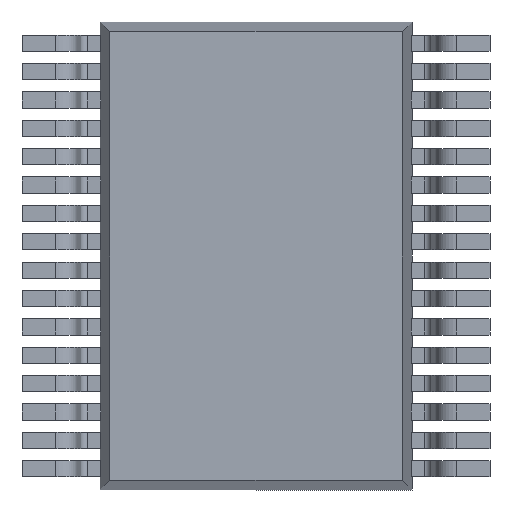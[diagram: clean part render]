
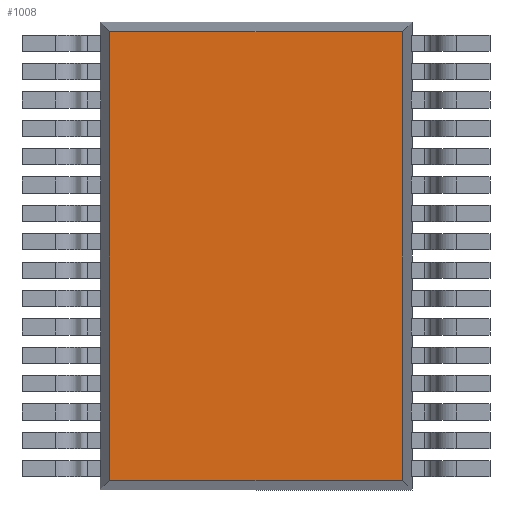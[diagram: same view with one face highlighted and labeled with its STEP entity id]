
A CAD part, front view. The second image highlights one B-rep face of the part: STEP entity #1008.
In plain terms, the highlighted planar face has unit normal (0, -1, 0).
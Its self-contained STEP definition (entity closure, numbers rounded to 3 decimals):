
#1008 = ADVANCED_FACE ( 'NONE', ( #17285 ), #4816, .F. ) ;
#2752 = AXIS2_PLACEMENT_3D ( 'NONE', #4817, #4822, #4823 ) ;
#4816 = PLANE ( 'NONE',  #2752 ) ;
#4817 = CARTESIAN_POINT ( 'NONE',  ( 0., 0.1, 0. ) ) ;
#4822 = DIRECTION ( 'NONE',  ( 0., 1., 0. ) ) ;
#4823 = DIRECTION ( 'NONE',  ( 0., 0., 1. ) ) ;
#9263 = CARTESIAN_POINT ( 'NONE',  ( 2.059, 0.1, -3.159 ) ) ;
#9312 = CARTESIAN_POINT ( 'NONE',  ( -2.059, 0.1, -3.159 ) ) ;
#9408 = CARTESIAN_POINT ( 'NONE',  ( 2.059, 0.1, 3.159 ) ) ;
#9493 = CARTESIAN_POINT ( 'NONE',  ( -2.059, 0.1, 3.159 ) ) ;
#10825 = CARTESIAN_POINT ( 'NONE',  ( 2.059, 0.1, 3.3 ) ) ;
#10865 = DIRECTION ( 'NONE',  ( 0., 0., 1. ) ) ;
#10940 = CARTESIAN_POINT ( 'NONE',  ( 2.2, 0.1, -3.159 ) ) ;
#10941 = DIRECTION ( 'NONE',  ( 1., 0., 0. ) ) ;
#10942 = CARTESIAN_POINT ( 'NONE',  ( 2.2, 0.1, 3.159 ) ) ;
#10943 = DIRECTION ( 'NONE',  ( -1., 0., 0. ) ) ;
#11308 = LINE ( 'NONE', #10825, #11327 ) ;
#11327 = VECTOR ( 'NONE', #10865, 1000. ) ;
#11385 = LINE ( 'NONE', #10940, #11388 ) ;
#11387 = LINE ( 'NONE', #10942, #11390 ) ;
#11388 = VECTOR ( 'NONE', #10941, 1000. ) ;
#11390 = VECTOR ( 'NONE', #10943, 1000. ) ;
#11768 = LINE ( 'NONE', #12856, #11795 ) ;
#11795 = VECTOR ( 'NONE', #12951, 1000. ) ;
#12856 = CARTESIAN_POINT ( 'NONE',  ( -2.059, 0.1, 3.3 ) ) ;
#12951 = DIRECTION ( 'NONE',  ( 0., 0., -1. ) ) ;
#14430 = EDGE_LOOP ( 'NONE', ( #17920, #17921, #17922, #17923 ) ) ;
#17285 = FACE_OUTER_BOUND ( 'NONE', #14430, .T. ) ;
#17920 = ORIENTED_EDGE ( 'NONE', *, *, #20451, .T. ) ;
#17921 = ORIENTED_EDGE ( 'NONE', *, *, #20232, .T. ) ;
#17922 = ORIENTED_EDGE ( 'NONE', *, *, #20198, .T. ) ;
#17923 = ORIENTED_EDGE ( 'NONE', *, *, #20233, .T. ) ;
#18742 = VERTEX_POINT ( 'NONE', #9263 ) ;
#18788 = VERTEX_POINT ( 'NONE', #9312 ) ;
#18884 = VERTEX_POINT ( 'NONE', #9408 ) ;
#18969 = VERTEX_POINT ( 'NONE', #9493 ) ;
#20198 = EDGE_CURVE ( 'NONE', #18742, #18884, #11308, .T. ) ;
#20232 = EDGE_CURVE ( 'NONE', #18788, #18742, #11385, .T. ) ;
#20233 = EDGE_CURVE ( 'NONE', #18884, #18969, #11387, .T. ) ;
#20451 = EDGE_CURVE ( 'NONE', #18969, #18788, #11768, .T. ) ;
